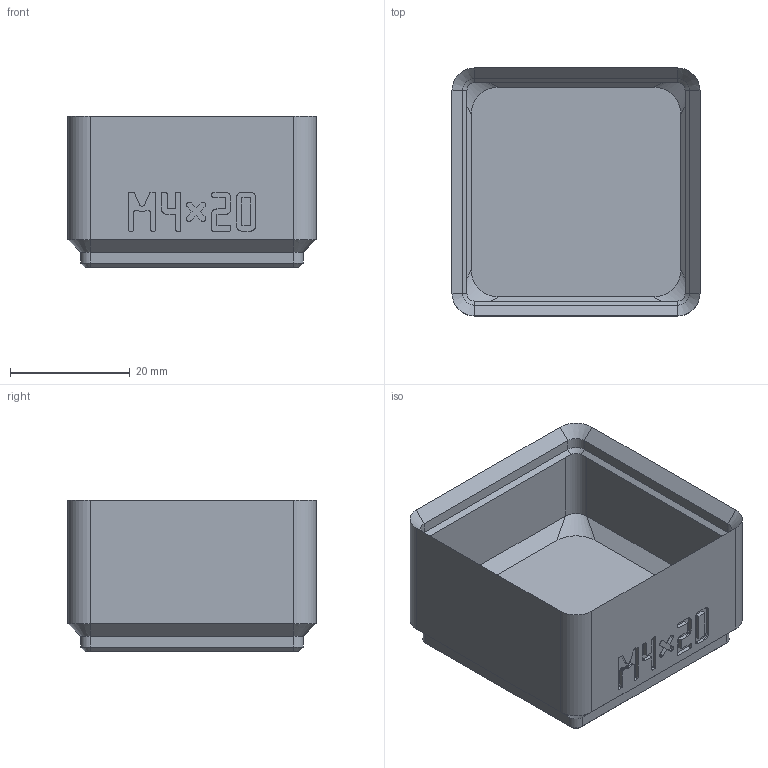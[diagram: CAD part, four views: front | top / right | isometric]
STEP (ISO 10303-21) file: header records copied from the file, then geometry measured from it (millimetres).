
FILE_DESCRIPTION(('Open CASCADE Model'),'2;1');
FILE_NAME('bin_m4x20','2026-11-03T16:47:52',('Author'),('Open CASCADE'), 'Open CASCADE STEP processor 8.0','build123d','Unknown');
FILE_SCHEMA(('AUTOMOTIVE_DESIGN { 1 0 10303 214 1 1 1 1 }'));
Length unit declared in the file: millimetre
Products named in the file (1): bin_m4x20
Bounding box: 41.5 x 41.5 x 25.4 mm (x, y, z)
Volume: 12303.8 mm3; surface area: 10475.6 mm2
Topology: 1 solids, 1 shells, 566 faces, 1591 edges, 1042 vertices
Faces by surface type: plane 518, cylinder 24, cone 16, bspline 8
Full cylindrical faces by diameter (mm): 3.2 x4, 6.5 x4
Entity records: 37506 total; most frequent: CARTESIAN_POINT 7588, DIRECTION 4845, LINE 3579, VECTOR 3579, ORIENTED_EDGE 3182, PCURVE 3182, DEFINITIONAL_REPRESENTATION 3182, EDGE_CURVE 1591
